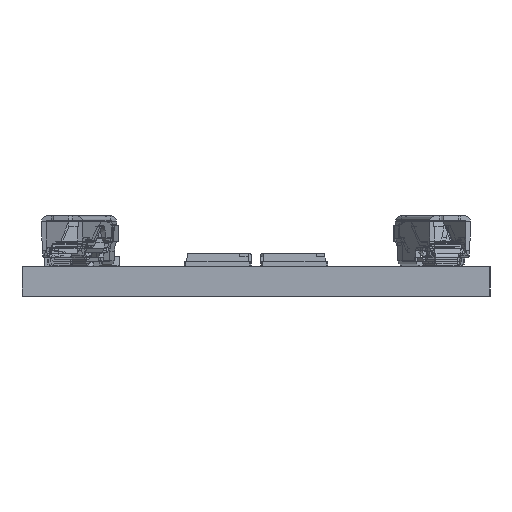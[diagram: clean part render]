
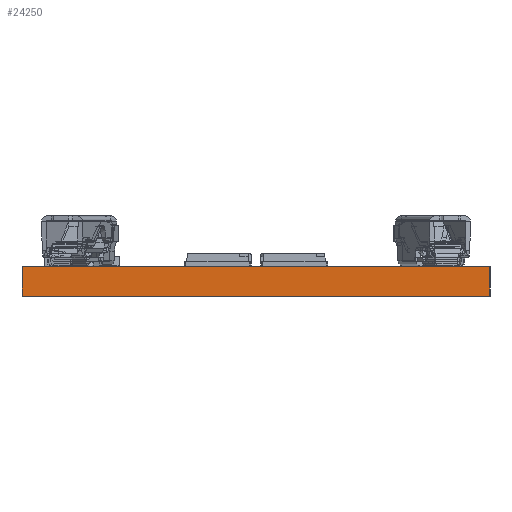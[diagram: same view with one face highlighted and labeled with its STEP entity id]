
A CAD part, left-side view. The second image highlights one B-rep face of the part: STEP entity #24250.
In plain terms, the highlighted planar face has unit normal (-1, 0, 0).
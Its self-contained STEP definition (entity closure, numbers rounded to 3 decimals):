
#215=DIRECTION('',(0.,-1.,0.));
#216=VECTOR('',#215,25.);
#217=CARTESIAN_POINT('',(-279.5,11.508,0.));
#218=LINE('',#217,#216);
#9152=DIRECTION('',(0.,-1.,0.));
#9153=VECTOR('',#9152,25.);
#9154=CARTESIAN_POINT('',(-279.5,11.508,-1.6));
#9155=LINE('',#9154,#9153);
#9458=DIRECTION('',(0.,0.,-1.));
#9459=VECTOR('',#9458,1.6);
#9460=CARTESIAN_POINT('',(-279.5,11.508,0.));
#9461=LINE('',#9460,#9459);
#9462=DIRECTION('',(0.,0.,-1.));
#9463=VECTOR('',#9462,1.6);
#9464=CARTESIAN_POINT('',(-279.5,-13.492,0.));
#9465=LINE('',#9464,#9463);
#10684=CARTESIAN_POINT('',(-279.5,11.508,0.));
#10685=VERTEX_POINT('',#10684);
#10686=CARTESIAN_POINT('',(-279.5,-13.492,0.));
#10687=VERTEX_POINT('',#10686);
#10828=CARTESIAN_POINT('',(-279.5,11.508,-1.6));
#10829=VERTEX_POINT('',#10828);
#10830=CARTESIAN_POINT('',(-279.5,-13.492,-1.6));
#10831=VERTEX_POINT('',#10830);
#24238=CARTESIAN_POINT('',(-279.5,11.508,0.));
#24239=DIRECTION('',(-1.,0.,0.));
#24240=DIRECTION('',(0.,-1.,0.));
#24241=AXIS2_PLACEMENT_3D('',#24238,#24239,#24240);
#24242=PLANE('',#24241);
#24243=ORIENTED_EDGE('',*,*,#16476,.T.);
#24245=ORIENTED_EDGE('',*,*,#24244,.T.);
#24246=ORIENTED_EDGE('',*,*,#23701,.F.);
#24247=ORIENTED_EDGE('',*,*,#24224,.F.);
#24248=EDGE_LOOP('',(#24243,#24245,#24246,#24247));
#24249=FACE_OUTER_BOUND('',#24248,.F.);
#16476=EDGE_CURVE('',#10685,#10687,#218,.T.);
#23701=EDGE_CURVE('',#10829,#10831,#9155,.T.);
#24224=EDGE_CURVE('',#10685,#10829,#9461,.T.);
#24244=EDGE_CURVE('',#10687,#10831,#9465,.T.);
#24250=ADVANCED_FACE('',(#24249),#24242,.T.);
